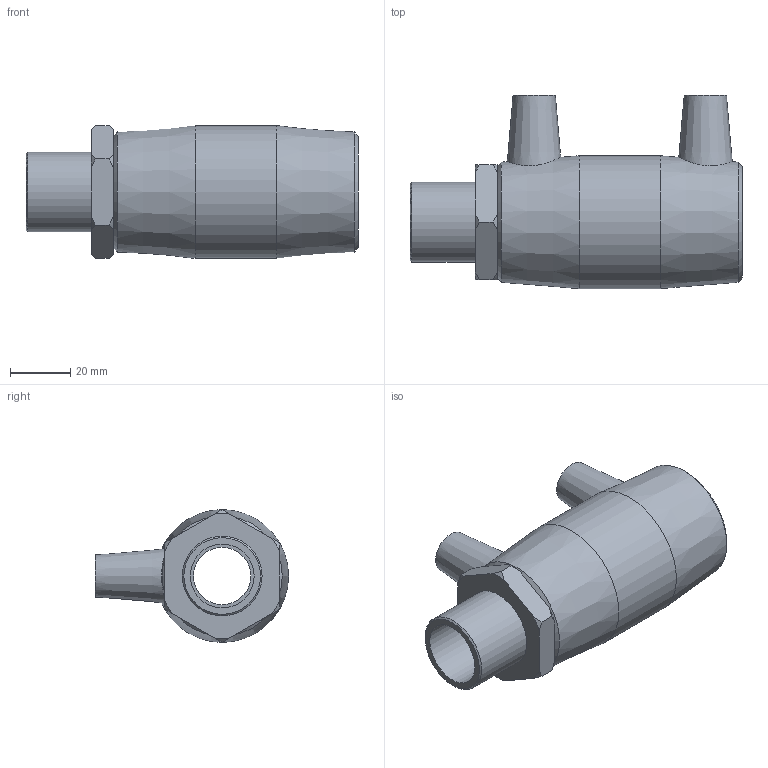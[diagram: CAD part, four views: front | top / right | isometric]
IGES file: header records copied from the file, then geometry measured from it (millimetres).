
Global section: file name: 492104032007.ipt; native system: Autodesk Inventor 2015; preprocessor: unknown; author: KIM; date: 20200202.122303; units: millimetre
Bounding box: 110 x 64 x 44 mm (x, y, z)
Volume: 88950.8 mm3; surface area: 29034.6 mm2
Topology: 1 solids, 2 shells, 54 faces, 129 edges, 88 vertices
Faces by surface type: plane 21, cone 19, revolution 8, cylinder 6
Full cylindrical faces by diameter (mm): 4 x2, 26.441 x1, 32 x2, 44 x1
